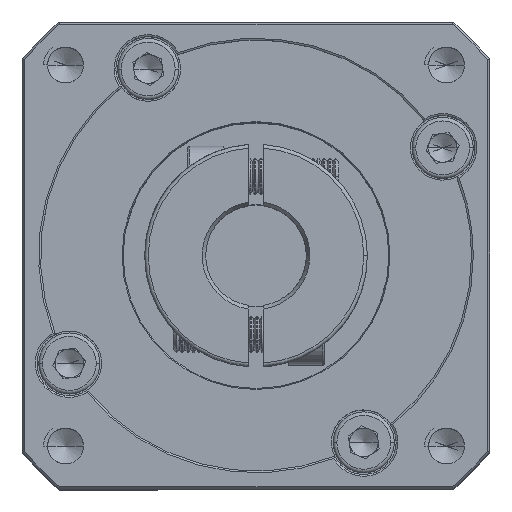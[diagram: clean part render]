
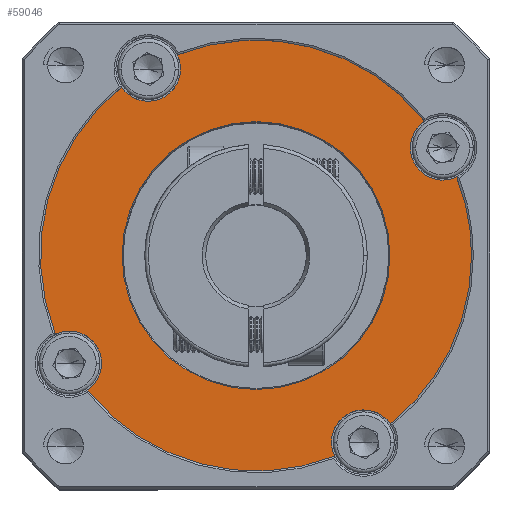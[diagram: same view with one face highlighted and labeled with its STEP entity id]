
A CAD part, top view. The second image highlights one B-rep face of the part: STEP entity #59046.
In plain terms, the highlighted planar face has unit normal (0, 0, 1).
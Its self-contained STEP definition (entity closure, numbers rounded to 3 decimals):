
#662 = ORIENTED_EDGE ( 'NONE', *, *, #98686, .T. ) ;
#835 = CARTESIAN_POINT ( 'NONE',  ( -13.803, 52.071, 1.199 ) ) ;
#1730 = VERTEX_POINT ( 'NONE', #41017 ) ;
#2550 = CARTESIAN_POINT ( 'NONE',  ( -60.693, 14.637, 1.199 ) ) ;
#4976 = DIRECTION ( 'NONE',  ( 1., 0., 0. ) ) ;
#6168 = DIRECTION ( 'NONE',  ( 1., 0., 0. ) ) ;
#6918 = CARTESIAN_POINT ( 'NONE',  ( -9.316, 44.299, 1.199 ) ) ;
#7151 = AXIS2_PLACEMENT_3D ( 'NONE', #120632, #100833, #62057 ) ;
#7163 = AXIS2_PLACEMENT_3D ( 'NONE', #116565, #60020, #89087 ) ;
#7929 = AXIS2_PLACEMENT_3D ( 'NONE', #89657, #41946, #109429 ) ;
#8015 = EDGE_CURVE ( 'NONE', #94588, #96478, #125047, .T. ) ;
#8540 = DIRECTION ( 'NONE',  ( 1., 0., 0. ) ) ;
#9050 = VERTEX_POINT ( 'NONE', #85150 ) ;
#9440 = CARTESIAN_POINT ( 'NONE',  ( -37.248, 33.354, 1.199 ) ) ;
#9510 = FACE_OUTER_BOUND ( 'NONE', #81378, .T. ) ;
#10208 = ORIENTED_EDGE ( 'NONE', *, *, #41849, .F. ) ;
#11714 = DIRECTION ( 'NONE',  ( 0., 0., 1. ) ) ;
#11737 = ORIENTED_EDGE ( 'NONE', *, *, #31406, .T. ) ;
#12140 = CARTESIAN_POINT ( 'NONE',  ( -22.248, 7.373, 1.199 ) ) ;
#16272 = DIRECTION ( 'NONE',  ( 0., 0., 1. ) ) ;
#16447 = ORIENTED_EDGE ( 'NONE', *, *, #35076, .T. ) ;
#17501 = DIRECTION ( 'NONE',  ( 1., 0., 0. ) ) ;
#19162 = DIRECTION ( 'NONE',  ( 1., 0., 0. ) ) ;
#20747 = EDGE_CURVE ( 'NONE', #38300, #46388, #33841, .T. ) ;
#24696 = AXIS2_PLACEMENT_3D ( 'NONE', #96489, #29751, #97732 ) ;
#24776 = CIRCLE ( 'NONE', #24696, 4.5 ) ;
#24856 = AXIS2_PLACEMENT_3D ( 'NONE', #124224, #105217, #47356 ) ;
#26614 = AXIS2_PLACEMENT_3D ( 'NONE', #118375, #11714, #60633 ) ;
#27160 = VERTEX_POINT ( 'NONE', #85132 ) ;
#27836 = ORIENTED_EDGE ( 'NONE', *, *, #102722, .T. ) ;
#28088 = ORIENTED_EDGE ( 'NONE', *, *, #51723, .T. ) ;
#29648 = EDGE_CURVE ( 'NONE', #27160, #99402, #24776, .T. ) ;
#29751 = DIRECTION ( 'NONE',  ( 0., 0., 1. ) ) ;
#30577 = DIRECTION ( 'NONE',  ( 1., 0., 0. ) ) ;
#31406 = EDGE_CURVE ( 'NONE', #93797, #9050, #42200, .T. ) ;
#33585 = DIRECTION ( 'NONE',  ( 0., 0., 1. ) ) ;
#33841 = CIRCLE ( 'NONE', #66538, 4.5 ) ;
#35076 = EDGE_CURVE ( 'NONE', #48079, #46388, #78752, .T. ) ;
#35486 = DIRECTION ( 'NONE',  ( 1., 0., 0. ) ) ;
#35606 = CARTESIAN_POINT ( 'NONE',  ( -37.248, 33.354, 1.199 ) ) ;
#36707 = CIRCLE ( 'NONE', #24856, 18.644 ) ;
#36796 = EDGE_CURVE ( 'NONE', #85805, #27160, #85762, .T. ) ;
#37274 = EDGE_CURVE ( 'NONE', #121427, #53778, #43450, .T. ) ;
#38128 = FACE_BOUND ( 'NONE', #42677, .T. ) ;
#38300 = VERTEX_POINT ( 'NONE', #55963 ) ;
#40103 = EDGE_CURVE ( 'NONE', #96478, #1730, #120597, .T. ) ;
#41017 = CARTESIAN_POINT ( 'NONE',  ( -48.193, 61.286, 1.199 ) ) ;
#41551 = CARTESIAN_POINT ( 'NONE',  ( -58.729, 18.354, 1.199 ) ) ;
#41849 = EDGE_CURVE ( 'NONE', #48079, #121427, #67198, .T. ) ;
#41946 = DIRECTION ( 'NONE',  ( 0., 0., 1. ) ) ;
#42200 = CIRCLE ( 'NONE', #7151, 18.644 ) ;
#42300 = EDGE_CURVE ( 'NONE', #94635, #38300, #113726, .T. ) ;
#42677 = EDGE_LOOP ( 'NONE', ( #48123, #11737 ) ) ;
#42818 = AXIS2_PLACEMENT_3D ( 'NONE', #118613, #51530, #8540 ) ;
#42896 = CARTESIAN_POINT ( 'NONE',  ( -22.248, 7.373, 1.199 ) ) ;
#43081 = AXIS2_PLACEMENT_3D ( 'NONE', #35606, #16272, #6168 ) ;
#43450 = CIRCLE ( 'NONE', #7163, 4.5 ) ;
#43607 = CARTESIAN_POINT ( 'NONE',  ( -7.248, 33.354, 1.199 ) ) ;
#46388 = VERTEX_POINT ( 'NONE', #111015 ) ;
#46576 = AXIS2_PLACEMENT_3D ( 'NONE', #102855, #64895, #123105 ) ;
#46679 = CARTESIAN_POINT ( 'NONE',  ( -65.18, 22.409, 1.199 ) ) ;
#47356 = DIRECTION ( 'NONE',  ( 1., 0., 0. ) ) ;
#48079 = VERTEX_POINT ( 'NONE', #2550 ) ;
#48123 = ORIENTED_EDGE ( 'NONE', *, *, #91995, .T. ) ;
#49259 = DIRECTION ( 'NONE',  ( 0., 0., 1. ) ) ;
#51530 = DIRECTION ( 'NONE',  ( 0., 0., 1. ) ) ;
#51723 = EDGE_CURVE ( 'NONE', #85805, #1730, #71233, .T. ) ;
#53778 = VERTEX_POINT ( 'NONE', #46679 ) ;
#54077 = VERTEX_POINT ( 'NONE', #43607 ) ;
#55963 = CARTESIAN_POINT ( 'NONE',  ( -26.748, 7.373, 1.199 ) ) ;
#57805 = ORIENTED_EDGE ( 'NONE', *, *, #36796, .F. ) ;
#59046 = ADVANCED_FACE ( 'NONE', ( #38128, #9510 ), #72250, .T. ) ;
#60020 = DIRECTION ( 'NONE',  ( 0., 0., 1. ) ) ;
#60633 = DIRECTION ( 'NONE',  ( 1., 0., 0. ) ) ;
#62057 = DIRECTION ( 'NONE',  ( 1., 0., 0. ) ) ;
#64192 = CARTESIAN_POINT ( 'NONE',  ( -18.531, 9.909, 1.199 ) ) ;
#64895 = DIRECTION ( 'NONE',  ( 0., 0., 1. ) ) ;
#65101 = DIRECTION ( 'NONE',  ( 0., 0., 1. ) ) ;
#65183 = AXIS2_PLACEMENT_3D ( 'NONE', #42896, #33585, #4976 ) ;
#65313 = AXIS2_PLACEMENT_3D ( 'NONE', #9440, #76926, #19162 ) ;
#66015 = CARTESIAN_POINT ( 'NONE',  ( -52.248, 59.335, 1.199 ) ) ;
#66317 = CIRCLE ( 'NONE', #46576, 30. ) ;
#66538 = AXIS2_PLACEMENT_3D ( 'NONE', #12140, #49259, #97838 ) ;
#67198 = CIRCLE ( 'NONE', #78079, 4.5 ) ;
#67624 = AXIS2_PLACEMENT_3D ( 'NONE', #92337, #83890, #73377 ) ;
#70089 = CIRCLE ( 'NONE', #43081, 30. ) ;
#71233 = CIRCLE ( 'NONE', #26614, 30. ) ;
#72250 = PLANE ( 'NONE',  #42818 ) ;
#73327 = CARTESIAN_POINT ( 'NONE',  ( -47.748, 59.335, 1.199 ) ) ;
#73377 = DIRECTION ( 'NONE',  ( 1., 0., 0. ) ) ;
#76605 = ORIENTED_EDGE ( 'NONE', *, *, #29648, .F. ) ;
#76926 = DIRECTION ( 'NONE',  ( 0., 0., 1. ) ) ;
#78079 = AXIS2_PLACEMENT_3D ( 'NONE', #118309, #99361, #30577 ) ;
#78752 = CIRCLE ( 'NONE', #67624, 30. ) ;
#79339 = ORIENTED_EDGE ( 'NONE', *, *, #20747, .F. ) ;
#81378 = EDGE_LOOP ( 'NONE', ( #10208, #16447, #79339, #102729, #662, #27836, #76605, #57805, #28088, #99111, #124354, #108544, #106456 ) ) ;
#83890 = DIRECTION ( 'NONE',  ( 0., 0., 1. ) ) ;
#85132 = CARTESIAN_POINT ( 'NONE',  ( -15.767, 48.354, 1.199 ) ) ;
#85150 = CARTESIAN_POINT ( 'NONE',  ( -18.604, 33.354, 1.199 ) ) ;
#85762 = CIRCLE ( 'NONE', #7929, 4.5 ) ;
#85805 = VERTEX_POINT ( 'NONE', #835 ) ;
#89087 = DIRECTION ( 'NONE',  ( 1., 0., 0. ) ) ;
#89657 = CARTESIAN_POINT ( 'NONE',  ( -11.267, 48.354, 1.199 ) ) ;
#91995 = EDGE_CURVE ( 'NONE', #9050, #93797, #36707, .T. ) ;
#92337 = CARTESIAN_POINT ( 'NONE',  ( -37.248, 33.354, 1.199 ) ) ;
#93797 = VERTEX_POINT ( 'NONE', #95545 ) ;
#94046 = AXIS2_PLACEMENT_3D ( 'NONE', #122476, #65101, #35486 ) ;
#94588 = VERTEX_POINT ( 'NONE', #121941 ) ;
#94635 = VERTEX_POINT ( 'NONE', #64192 ) ;
#95545 = CARTESIAN_POINT ( 'NONE',  ( -55.892, 33.354, 1.199 ) ) ;
#96478 = VERTEX_POINT ( 'NONE', #73327 ) ;
#96489 = CARTESIAN_POINT ( 'NONE',  ( -11.267, 48.354, 1.199 ) ) ;
#97732 = DIRECTION ( 'NONE',  ( 1., 0., 0. ) ) ;
#97838 = DIRECTION ( 'NONE',  ( 1., 0., 0. ) ) ;
#98257 = EDGE_CURVE ( 'NONE', #94588, #53778, #66317, .T. ) ;
#98686 = EDGE_CURVE ( 'NONE', #94635, #54077, #114563, .T. ) ;
#99111 = ORIENTED_EDGE ( 'NONE', *, *, #40103, .F. ) ;
#99361 = DIRECTION ( 'NONE',  ( 0., 0., 1. ) ) ;
#99402 = VERTEX_POINT ( 'NONE', #6918 ) ;
#100833 = DIRECTION ( 'NONE',  ( 0., 0., -1. ) ) ;
#102722 = EDGE_CURVE ( 'NONE', #54077, #99402, #70089, .T. ) ;
#102729 = ORIENTED_EDGE ( 'NONE', *, *, #42300, .F. ) ;
#102855 = CARTESIAN_POINT ( 'NONE',  ( -37.248, 33.354, 1.199 ) ) ;
#105217 = DIRECTION ( 'NONE',  ( 0., 0., -1. ) ) ;
#106456 = ORIENTED_EDGE ( 'NONE', *, *, #37274, .F. ) ;
#108544 = ORIENTED_EDGE ( 'NONE', *, *, #98257, .T. ) ;
#109429 = DIRECTION ( 'NONE',  ( 1., 0., 0. ) ) ;
#110759 = AXIS2_PLACEMENT_3D ( 'NONE', #66015, #113620, #17501 ) ;
#111015 = CARTESIAN_POINT ( 'NONE',  ( -26.303, 5.422, 1.199 ) ) ;
#113620 = DIRECTION ( 'NONE',  ( 0., 0., 1. ) ) ;
#113726 = CIRCLE ( 'NONE', #65183, 4.5 ) ;
#114563 = CIRCLE ( 'NONE', #65313, 30. ) ;
#116565 = CARTESIAN_POINT ( 'NONE',  ( -63.229, 18.354, 1.199 ) ) ;
#118309 = CARTESIAN_POINT ( 'NONE',  ( -63.229, 18.354, 1.199 ) ) ;
#118375 = CARTESIAN_POINT ( 'NONE',  ( -37.248, 33.354, 1.199 ) ) ;
#118613 = CARTESIAN_POINT ( 'NONE',  ( -37.248, 33.354, 1.199 ) ) ;
#120597 = CIRCLE ( 'NONE', #94046, 4.5 ) ;
#120632 = CARTESIAN_POINT ( 'NONE',  ( -37.248, 33.354, 1.199 ) ) ;
#121427 = VERTEX_POINT ( 'NONE', #41551 ) ;
#121941 = CARTESIAN_POINT ( 'NONE',  ( -55.965, 56.799, 1.199 ) ) ;
#122476 = CARTESIAN_POINT ( 'NONE',  ( -52.248, 59.335, 1.199 ) ) ;
#123105 = DIRECTION ( 'NONE',  ( 1., 0., 0. ) ) ;
#124224 = CARTESIAN_POINT ( 'NONE',  ( -37.248, 33.354, 1.199 ) ) ;
#124354 = ORIENTED_EDGE ( 'NONE', *, *, #8015, .F. ) ;
#125047 = CIRCLE ( 'NONE', #110759, 4.5 ) ;
